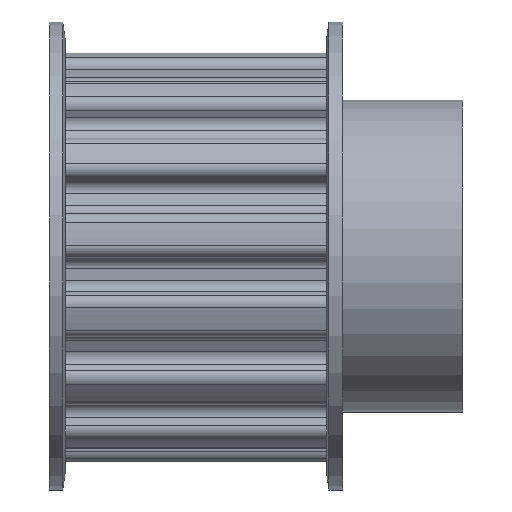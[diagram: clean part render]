
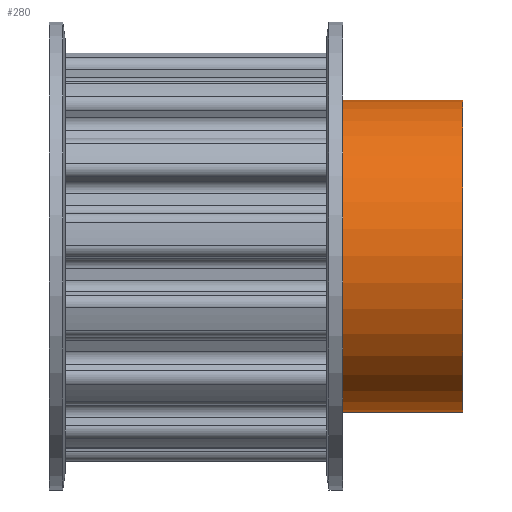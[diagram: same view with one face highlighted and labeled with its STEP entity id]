
A CAD part, top view. The second image highlights one B-rep face of the part: STEP entity #280.
In plain terms, the highlighted cylindrical face has radius 17 mm (diameter 34 mm), a partial arc.
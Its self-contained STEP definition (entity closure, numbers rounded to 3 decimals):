
#280 = ADVANCED_FACE( '', ( #700 ), #701, .T. );
#700 = FACE_OUTER_BOUND( '', #1123, .T. );
#701 = CYLINDRICAL_SURFACE( '', #1124, 17. );
#1123 = EDGE_LOOP( '', ( #3104, #3105, #3106, #3107 ) );
#1124 = AXIS2_PLACEMENT_3D( '', #3108, #3109, #3110 );
#3104 = ORIENTED_EDGE( '', *, *, #3184, .T. );
#3105 = ORIENTED_EDGE( '', *, *, #3660, .F. );
#3106 = ORIENTED_EDGE( '', *, *, #3186, .T. );
#3107 = ORIENTED_EDGE( '', *, *, #3898, .T. );
#3108 = CARTESIAN_POINT( '', ( 38.4, 0., 0. ) );
#3109 = DIRECTION( '', ( 1., 0., 0. ) );
#3110 = DIRECTION( '', ( 0., 1., 0. ) );
#3184 = EDGE_CURVE( '', #3899, #3900, #3901, .T. );
#3186 = EDGE_CURVE( '', #3904, #3902, #3905, .T. );
#3660 = EDGE_CURVE( '', #3904, #3900, #4746, .T. );
#3898 = EDGE_CURVE( '', #3902, #3899, #5067, .T. );
#3899 = VERTEX_POINT( '', #5068 );
#3900 = VERTEX_POINT( '', #5069 );
#3901 = LINE( '', #5070, #5071 );
#3902 = VERTEX_POINT( '', #5072 );
#3904 = VERTEX_POINT( '', #5074 );
#3905 = LINE( '', #5075, #5076 );
#4746 = CIRCLE( '', #6100, 17. );
#5067 = CIRCLE( '', #6587, 17. );
#5068 = CARTESIAN_POINT( '', ( 45., 17., 0. ) );
#5069 = CARTESIAN_POINT( '', ( 31.8, 17., 0. ) );
#5070 = CARTESIAN_POINT( '', ( 38.4, 17., 0. ) );
#5071 = VECTOR( '', #6588, 1. );
#5072 = CARTESIAN_POINT( '', ( 45., -17., 0. ) );
#5074 = CARTESIAN_POINT( '', ( 31.8, -17., 0. ) );
#5075 = CARTESIAN_POINT( '', ( 38.4, -17., 0. ) );
#5076 = VECTOR( '', #6592, 1. );
#6100 = AXIS2_PLACEMENT_3D( '', #7646, #7647, #7648 );
#6587 = AXIS2_PLACEMENT_3D( '', #8028, #8029, #8030 );
#6588 = DIRECTION( '', ( -1., 0., 0. ) );
#6592 = DIRECTION( '', ( 1., 0., 0. ) );
#7646 = CARTESIAN_POINT( '', ( 31.8, 0., 0. ) );
#7647 = DIRECTION( '', ( -1., 0., 0. ) );
#7648 = DIRECTION( '', ( 0., 1., 0. ) );
#8028 = CARTESIAN_POINT( '', ( 45., 0., 0. ) );
#8029 = DIRECTION( '', ( -1., 0., 0. ) );
#8030 = DIRECTION( '', ( 0., 1., 0. ) );
